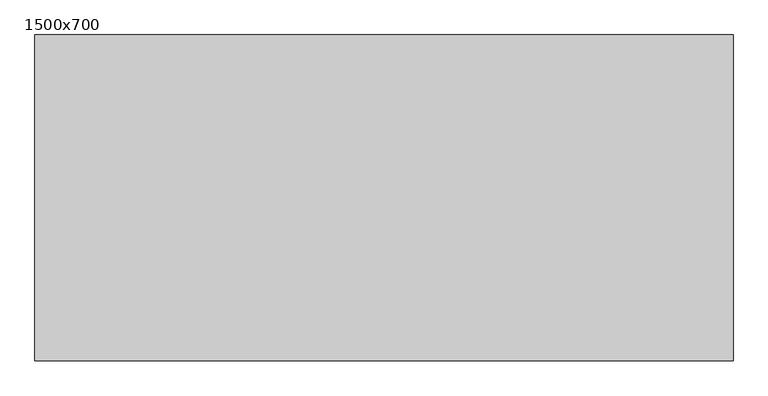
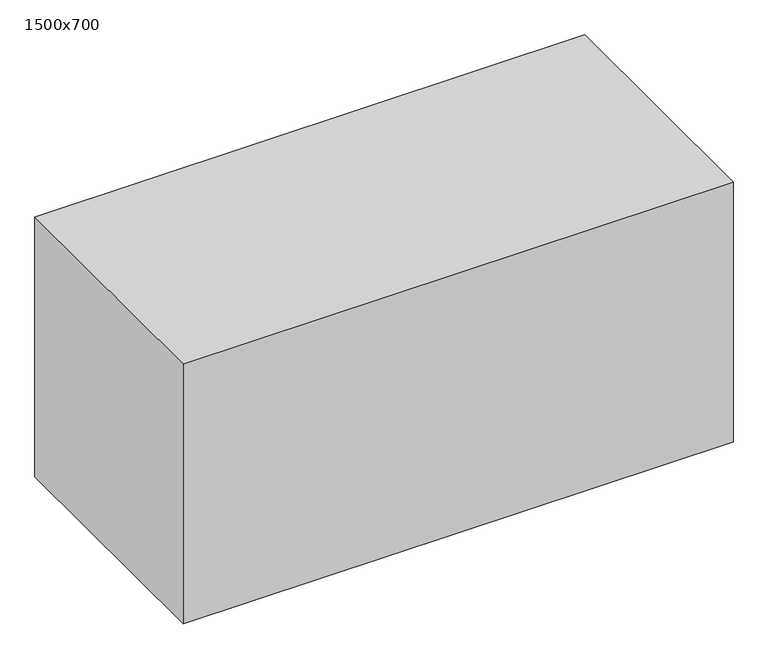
"""IFC4 building model written with IfcOpenShell, lengths in millimetres: furniture geometry, Fu_стол рабочий : 1500x700."""

from ifc_helpers import new_model, si_unit, origin, origin_with_axes, place, context, project, spatial, polyline, outline, extrude, source, transform, mapped, element, save


def furniture_1500x700_7e20c9bf(model_context):
    return source(origin(), model_context, "Body", "SweptSolid", [
        extrude(outline(polyline([(523.401892, -1616.7939624), (-976.598108, -1616.7939624), (-976.598108, -916.7939624), (523.401892, -916.7939624), (523.401892, -1616.7939624)])), origin_with_axes(), (0.0, 0.0, 1.0), 750.0),
    ])


if __name__ == "__main__":
    model = new_model("IFC4")
    model_context = context("Model", 3, world=origin())
    ifc_project = project(units=[si_unit("LENGTHUNIT", "METRE", prefix="MILLI")], contexts=[model_context])
    site = spatial("IfcSite", under=ifc_project)
    building = spatial("IfcBuilding", under=site)
    placement = place(None, origin())
    furniture_1500x700_shape = furniture_1500x700_7e20c9bf(model_context)
    element("IfcFurniture", 1, ObjectType="Fu_стол рабочий : 1500x700", at=placement, inside=building, context=model_context, shape_type="MappedRepresentation", body=[
        mapped(furniture_1500x700_shape, transform((0.0, 0.0, 0.0), x_axis=(1.0, 0.0, 0.0), y_axis=(0.0, 1.0, 0.0), z_axis=(0.0, 0.0, 1.0))),
    ])
    save(model, "model.ifc")
